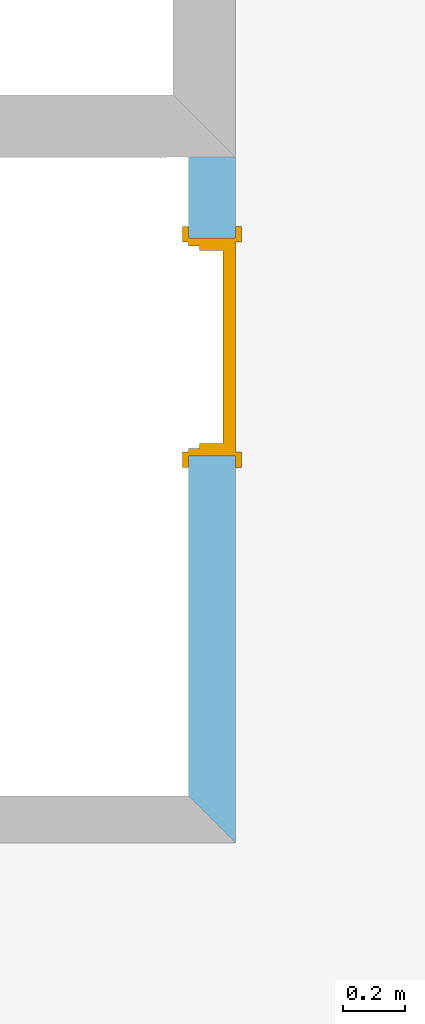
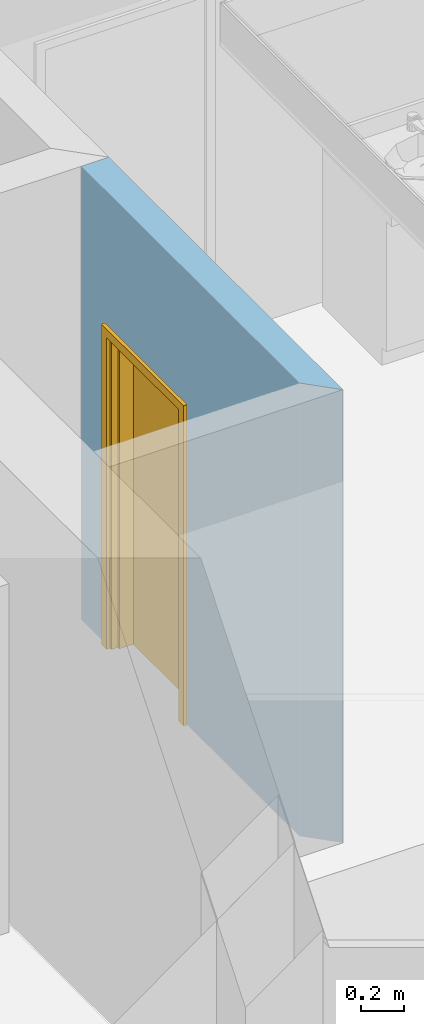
# One storey, part 39 of 127: 1 door, 1 opening, plus 1 element that does not belong to this part.
"""IFC2X3 building model written with IfcOpenShell, lengths in millimetres."""

from ifc_helpers import new_model, entity, si_unit, converted_unit, derived_unit, money_unit, direction, frame, origin_with_axes, origin_2d_with_axis, place, context, subcontext, project, spatial, polyline, rectangle, outline, extrude, faceted_brep, material, layer, layer_set, layer_usage, type_object, element, fill, save


model = new_model("IFC2X3")

# Units and contexts
model_context = context("Model", 3, precision=1e-05, world=origin_with_axes(), true_north=direction((0.0, 1.0)))
body_context = subcontext(model_context, "Body", "Model", "MODEL_VIEW")
ifc_project = project(units=[si_unit("LENGTHUNIT", "METRE", prefix="MILLI"), si_unit("AREAUNIT", "SQUARE_METRE"), si_unit("VOLUMEUNIT", "CUBIC_METRE"), converted_unit("PLANEANGLEUNIT", "DEGREE", entity("IfcPlaneAngleMeasure", 0.0174532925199), si_unit("PLANEANGLEUNIT", "RADIAN"), dimensions=[0, 0, 0, 0, 0, 0, 0]), si_unit("SOLIDANGLEUNIT", "STERADIAN"), money_unit("EUR"), converted_unit("TIMEUNIT", "Year", entity("IfcTimeMeasure", 31556926.0), si_unit("TIMEUNIT", "SECOND"), dimensions=[0, 0, 1, 0, 0, 0, 0]), si_unit("MASSUNIT", "GRAM", prefix="KILO"), si_unit("THERMODYNAMICTEMPERATUREUNIT", "DEGREE_CELSIUS"), si_unit("LUMINOUSINTENSITYUNIT", "LUMEN"), si_unit("ENERGYUNIT", "JOULE", prefix="MEGA"), derived_unit("THERMALCONDUCTANCEUNIT", [(si_unit("POWERUNIT", "WATT"), 1), (si_unit("LENGTHUNIT", "METRE"), -1), (si_unit("THERMODYNAMICTEMPERATUREUNIT", "KELVIN"), -1)]), derived_unit("SPECIFICHEATCAPACITYUNIT", [(si_unit("ENERGYUNIT", "JOULE"), 1), (si_unit("MASSUNIT", "GRAM", prefix="KILO"), -1), (si_unit("THERMODYNAMICTEMPERATUREUNIT", "KELVIN"), -1)]), derived_unit("MASSDENSITYUNIT", [(si_unit("MASSUNIT", "GRAM", prefix="KILO"), 1), (si_unit("VOLUMEUNIT", "CUBIC_METRE"), -1)])], contexts=[model_context])

# Site, building, storey
site_placement = place(None, origin_with_axes())
site = spatial("IfcSite", under=ifc_project, at=site_placement, Name="Site", CompositionType="ELEMENT")
building_placement = place(site_placement, origin_with_axes())
building = spatial("IfcBuilding", under=site, at=building_placement, Name="Building", CompositionType="ELEMENT")
storey_placement = place(building_placement, origin_with_axes())
storey = spatial("IfcBuildingStorey", under=building, at=storey_placement, Name="1 KORRUS", CompositionType="ELEMENT", Elevation=0.0)

# Wall, opening, door
ifc_material = material(Name="Kivi -  Uus Konstruktsioon")
ifc_layer = layer(ifc_material, 150.0, ventilated="UNKNOWN")
ifc_layer_set = layer_set([ifc_layer], Name="uus ss 150")
ifc_layer_usage = layer_usage(ifc_layer_set, "AXIS2", "NEGATIVE", 0.0)
wall_type = type_object("IfcWallType", Name="SS-1", PredefinedType="NOTDEFINED")
wall_placement = place(storey_placement, frame((17426.1801656, 63530.8217582, 0.0), z_axis=(0.0, 0.0, 1.0), x_axis=(0.0, -1.0, 0.0)))
wall = element("IfcWallStandardCase", 1, at=wall_placement, inside=storey, type_object=wall_type, material=ifc_layer_usage, Name="sahti sein", context=body_context, shape_type="SweptSolid", body=[
    extrude(outline(polyline([(0.0, -150.0), (2050.0, -150.0), (2200.0, 0.0), (0.0, 0.0), (0.0, -150.0)])), origin_with_axes(), (0.0, 0.0, 1.0), 2600.0),
])
opening_placement = place(wall_placement, frame((609.343086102, 0.0, 0.0), z_axis=(0.0, 0.0, 1.0), x_axis=(1.0, 0.0, 0.0)))
opening = element("IfcOpeningElement", 2, at=opening_placement, cuts=wall, Name="Teenindus luuk * Door 22", context=body_context, shape_type="SweptSolid", body=[
    extrude(rectangle(XDim=700.000000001, YDim=1800.0, at=origin_2d_with_axis()), frame((0.0, -150.0, 900.0), z_axis=(0.0, 1.0, 0.0), x_axis=(1.0, 0.0, 0.0)), (0.0, 0.0, 1.0), 450.0),
    extrude(rectangle(XDim=773.999999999, YDim=1837.0, at=origin_2d_with_axis()), frame((0.0, -150.0, 918.5), z_axis=(0.0, 1.0, 0.0), x_axis=(1.0, 0.0, 0.0)), (0.0, 0.0, -1.0), 150.0),
    extrude(rectangle(XDim=773.999999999, YDim=1837.0, at=origin_2d_with_axis()), frame((0.0, 0.0, 918.5), z_axis=(0.0, -1.0, 0.0), x_axis=(1.0, 0.0, 0.0)), (0.0, 0.0, -1.0), 150.0),
])
door_style = type_object("IfcDoorStyle", Name="VENT UKS 1   700×1\xa0800", ConstructionType="NOTDEFINED", OperationType="SINGLE_SWING_RIGHT", ParameterTakesPrecedence=False, Sizeable=False)
door_placement = place(opening_placement, frame((-350.0, 0.0, 0.0), z_axis=(0.0, 0.0, 1.0), x_axis=(1.0, 0.0, 0.0)))
door = element("IfcDoor", 3, at=door_placement, inside=storey, type_object=door_style, Name="Teenindus luuk * Door 22", OverallHeight=1800.0, OverallWidth=700.0, context=body_context, shape_type="Brep", body=[
    faceted_brep([(0.0, -115.0, 0.0), (25.0000000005, -115.0, 0.0), (25.0000000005, -150.0, 0.0), (0.0, -150.0, 0.0), (0.0, -115.0, 1800.0), (25.0000000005, -115.0, 1775.0), (25.0000000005, -150.0, 1775.0), (0.0, -150.0, 1800.0)], [[[0, 1, 2, 3]], [[0, 4, 5, 1]], [[1, 5, 6, 2]], [[3, 2, 6, 7]], [[4, 0, 3, 7]], [[5, 4, 7, 6]]]),
    faceted_brep([(700.000000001, -115.0, 1800.0), (675.0, -115.0, 1775.0), (675.0, -150.0, 1775.0), (700.000000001, -150.0, 1800.0), (700.000000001, -115.0, 0.0), (675.0, -115.0, 0.0), (675.0, -150.0, 0.0), (700.000000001, -150.0, 0.0)], [[[0, 1, 2, 3]], [[0, 4, 5, 1]], [[1, 5, 6, 2]], [[3, 2, 6, 7]], [[4, 0, 3, 7]], [[5, 4, 7, 6]]]),
    faceted_brep([(25.0000000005, -115.0, 1775.0), (675.0, -115.0, 1775.0), (675.0, -150.0, 1775.0), (25.0000000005, -150.0, 1775.0), (0.0, -115.0, 1800.0), (700.000000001, -115.0, 1800.0), (700.000000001, -150.0, 1800.0), (0.0, -150.0, 1800.0)], [[[0, 1, 2, 3]], [[0, 4, 5, 1]], [[1, 5, 6, 2]], [[3, 2, 6, 7]], [[4, 0, 3, 7]], [[5, 4, 7, 6]]]),
    faceted_brep([(-36.9999999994, -169.0, 0.0), (-36.9999999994, -150.0, 0.0), (12.9999999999, -150.0, 0.0), (12.9999999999, -169.0, 0.0), (-36.9999999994, -169.0, 1837.0), (-36.9999999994, -150.0, 1837.0), (12.9999999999, -150.0, 1787.0), (12.9999999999, -169.0, 1787.0)], [[[0, 1, 2, 3]], [[4, 5, 1, 0]], [[1, 5, 6, 2]], [[3, 2, 6, 7]], [[0, 3, 7, 4]], [[7, 6, 5, 4]]]),
    faceted_brep([(737.0, -169.0, 1837.0), (737.0, -150.0, 1837.0), (687.000000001, -150.0, 1787.0), (687.000000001, -169.0, 1787.0), (737.0, -169.0, 0.0), (737.0, -150.0, 0.0), (687.000000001, -150.0, 0.0), (687.000000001, -169.0, 0.0)], [[[0, 1, 2, 3]], [[4, 5, 1, 0]], [[1, 5, 6, 2]], [[3, 2, 6, 7]], [[0, 3, 7, 4]], [[7, 6, 5, 4]]]),
    faceted_brep([(-36.9999999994, -169.0, 1837.0), (-36.9999999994, -150.0, 1837.0), (12.9999999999, -150.0, 1787.0), (12.9999999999, -169.0, 1787.0), (737.0, -169.0, 1837.0), (737.0, -150.0, 1837.0), (687.000000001, -150.0, 1787.0), (687.000000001, -169.0, 1787.0)], [[[0, 1, 2, 3]], [[4, 5, 1, 0]], [[1, 5, 6, 2]], [[3, 2, 6, 7]], [[0, 3, 7, 4]], [[7, 6, 5, 4]]]),
    faceted_brep([(-36.9999999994, 19.0, 0.0), (12.9999999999, 19.0, 0.0), (12.9999999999, 0.0, 0.0), (-36.9999999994, 0.0, 0.0), (-36.9999999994, 19.0, 1837.0), (12.9999999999, 19.0, 1787.0), (12.9999999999, 0.0, 1787.0), (-36.9999999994, 0.0, 1837.0)], [[[0, 1, 2, 3]], [[0, 4, 5, 1]], [[1, 5, 6, 2]], [[3, 2, 6, 7]], [[4, 0, 3, 7]], [[5, 4, 7, 6]]]),
    faceted_brep([(737.0, 19.0, 1837.0), (687.000000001, 19.0, 1787.0), (687.000000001, 0.0, 1787.0), (737.0, 0.0, 1837.0), (737.0, 19.0, 0.0), (687.000000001, 19.0, 0.0), (687.000000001, 0.0, 0.0), (737.0, 0.0, 0.0)], [[[0, 1, 2, 3]], [[0, 4, 5, 1]], [[1, 5, 6, 2]], [[3, 2, 6, 7]], [[4, 0, 3, 7]], [[5, 4, 7, 6]]]),
    faceted_brep([(-36.9999999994, 19.0, 1837.0), (12.9999999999, 19.0, 1787.0), (12.9999999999, 0.0, 1787.0), (-36.9999999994, 0.0, 1837.0), (737.0, 19.0, 1837.0), (687.000000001, 19.0, 1787.0), (687.000000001, 0.0, 1787.0), (737.0, 0.0, 1837.0)], [[[0, 1, 2, 3]], [[0, 4, 5, 1]], [[1, 5, 6, 2]], [[3, 2, 6, 7]], [[4, 0, 3, 7]], [[5, 4, 7, 6]]]),
    faceted_brep([(40.0, -40.0, 0.0), (40.0, -40.0, 1760.0), (40.0, -115.0, 1760.0), (40.0, -115.0, 0.0), (28.0000000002, -40.0, 1760.0), (28.0000000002, -40.0, 0.0), (28.0000000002, 0.0, 1760.0), (0.0, 0.0, 1760.0), (0.0, -115.0, 1760.0), (0.0, -115.0, 0.0), (0.0, 0.0, 0.0), (28.0000000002, 0.0, 0.0)], [[[0, 1, 2, 3]], [[4, 1, 0, 5]], [[4, 6, 7, 8, 2, 1]], [[3, 2, 8, 9]], [[5, 0, 3, 9, 10, 11]], [[6, 4, 5, 11]], [[6, 11, 10, 7]], [[10, 9, 8, 7]]]),
    faceted_brep([(672.0, -40.0, 1760.0), (660.000000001, -40.0, 1760.0), (660.000000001, -115.0, 1760.0), (700.000000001, -115.0, 1760.0), (700.000000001, 0.0, 1760.0), (672.0, 0.0, 1760.0), (672.0, -40.0, 0.0), (660.000000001, -40.0, 0.0), (660.000000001, -115.0, 0.0), (700.000000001, -115.0, 0.0), (700.000000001, 0.0, 0.0), (672.0, 0.0, 0.0)], [[[0, 1, 2, 3, 4, 5]], [[1, 0, 6, 7]], [[1, 7, 8, 2]], [[3, 2, 8, 9]], [[4, 3, 9, 10]], [[11, 5, 4, 10]], [[0, 5, 11, 6]], [[6, 11, 10, 9, 8, 7]]]),
    faceted_brep([(28.0000000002, 0.0, 1772.0), (28.0000000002, 0.0, 1760.0), (0.0, 0.0, 1760.0), (0.0, 0.0, 1800.0), (700.000000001, 0.0, 1800.0), (700.000000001, 0.0, 1760.0), (672.0, 0.0, 1760.0), (672.0, 0.0, 1772.0), (28.0000000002, -40.0, 1772.0), (28.0000000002, -40.0, 1760.0), (40.0, -40.0, 1760.0), (40.0, -115.0, 1760.0), (0.0, -115.0, 1760.0), (0.0, -115.0, 1800.0), (700.000000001, -115.0, 1800.0), (700.000000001, -115.0, 1760.0), (672.0, -40.0, 1760.0), (660.000000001, -115.0, 1760.0), (660.000000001, -40.0, 1760.0), (672.0, -40.0, 1772.0)], [[[0, 1, 2, 3, 4, 5, 6, 7]], [[1, 0, 8, 9]], [[9, 10, 11, 12, 2, 1]], [[2, 12, 13, 3]], [[3, 13, 14, 4]], [[4, 14, 15, 5]], [[16, 6, 5, 15, 17, 18]], [[7, 6, 16, 19]], [[0, 7, 19, 8]], [[16, 18, 10, 9, 8, 19]], [[10, 18, 17, 11]], [[17, 15, 14, 13, 12, 11]]]),
    faceted_brep([(672.0, 0.0, 0.0), (672.0, -40.0, 0.0), (28.0000000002, -40.0, 0.0), (28.0000000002, 0.0, 0.0), (672.0, 0.0, 1772.0), (672.0, -40.0, 1772.0), (28.0000000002, -40.0, 1772.0), (28.0000000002, 0.0, 1772.0)], [[[0, 1, 2, 3]], [[4, 5, 1, 0]], [[1, 5, 6, 2]], [[3, 2, 6, 7]], [[0, 3, 7, 4]], [[7, 6, 5, 4]]]),
])
fill(opening, door)

save(model, "model.ifc")
